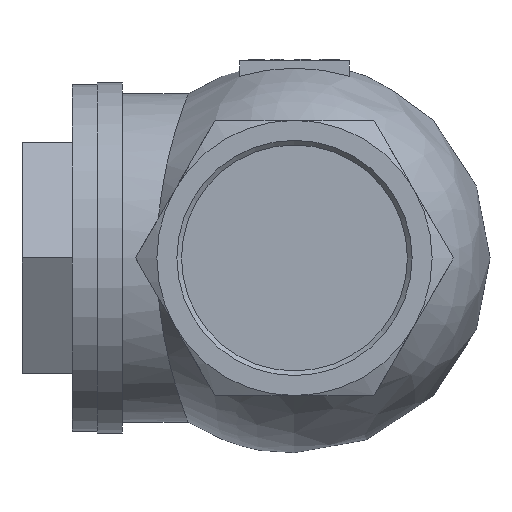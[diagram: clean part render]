
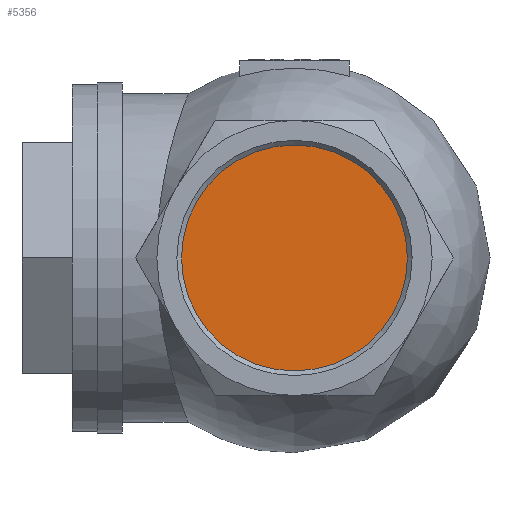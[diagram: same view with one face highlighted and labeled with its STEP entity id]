
A CAD part, left-side view. The second image highlights one B-rep face of the part: STEP entity #5356.
In plain terms, the highlighted planar face has unit normal (-1, 0, 0).
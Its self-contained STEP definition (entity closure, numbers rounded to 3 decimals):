
#603=FACE_OUTER_BOUND('',#930,.T.);
#930=EDGE_LOOP('',(#4764,#4765));
#1042=CIRCLE('',#5700,36.113);
#1043=CIRCLE('',#5701,36.113);
#2542=VERTEX_POINT('',#9382);
#2543=VERTEX_POINT('',#9384);
#3291=EDGE_CURVE('',#2543,#2542,#1042,.T.);
#3292=EDGE_CURVE('',#2542,#2543,#1043,.T.);
#4764=ORIENTED_EDGE('',*,*,#3291,.T.);
#4765=ORIENTED_EDGE('',*,*,#3292,.T.);
#5052=PLANE('',#5702);
#5356=ADVANCED_FACE('',(#603),#5052,.T.);
#5700=AXIS2_PLACEMENT_3D('',#9385,#6838,#6839);
#5701=AXIS2_PLACEMENT_3D('',#9386,#6840,#6841);
#5702=AXIS2_PLACEMENT_3D('',#9387,#6842,#6843);
#6838=DIRECTION('center_axis',(-1.,0.,0.));
#6839=DIRECTION('ref_axis',(0.,0.,1.));
#6840=DIRECTION('center_axis',(-1.,0.,0.));
#6841=DIRECTION('ref_axis',(0.,0.,1.));
#6842=DIRECTION('center_axis',(-1.,0.,0.));
#6843=DIRECTION('ref_axis',(0.,0.,1.));
#9382=CARTESIAN_POINT('',(-51.,0.,-36.113));
#9384=CARTESIAN_POINT('',(-51.,0.,36.113));
#9385=CARTESIAN_POINT('Origin',(-51.,0.,0.));
#9386=CARTESIAN_POINT('Origin',(-51.,0.,0.));
#9387=CARTESIAN_POINT('Origin',(-51.,0.,0.));
